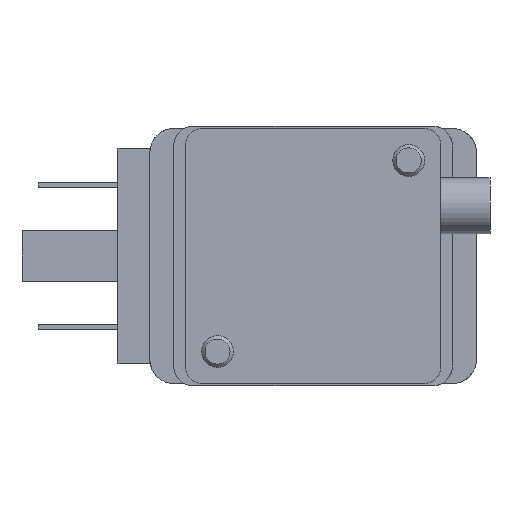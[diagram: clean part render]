
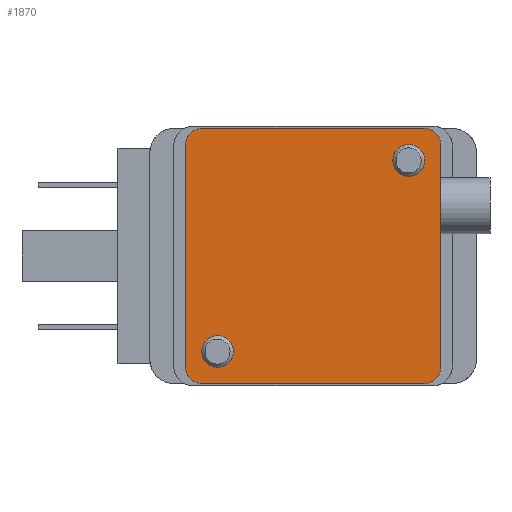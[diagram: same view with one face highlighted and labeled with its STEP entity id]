
A CAD part, front view. The second image highlights one B-rep face of the part: STEP entity #1870.
In plain terms, the highlighted planar face has unit normal (0, -1, 0).
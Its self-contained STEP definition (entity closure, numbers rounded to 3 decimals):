
#79=CIRCLE('',#1987,2.);
#80=CIRCLE('',#1988,2.);
#81=CIRCLE('',#1989,2.);
#82=CIRCLE('',#1990,2.);
#83=CIRCLE('',#1991,2.);
#84=CIRCLE('',#1992,2.);
#377=ORIENTED_EDGE('',*,*,#599,.F.);
#378=ORIENTED_EDGE('',*,*,#600,.F.);
#379=ORIENTED_EDGE('',*,*,#601,.F.);
#380=ORIENTED_EDGE('',*,*,#602,.F.);
#381=ORIENTED_EDGE('',*,*,#603,.F.);
#382=ORIENTED_EDGE('',*,*,#604,.F.);
#383=ORIENTED_EDGE('',*,*,#605,.F.);
#384=ORIENTED_EDGE('',*,*,#606,.F.);
#385=ORIENTED_EDGE('',*,*,#607,.F.);
#386=ORIENTED_EDGE('',*,*,#608,.F.);
#599=EDGE_CURVE('',#732,#732,#79,.F.);
#600=EDGE_CURVE('',#733,#733,#80,.F.);
#601=EDGE_CURVE('',#734,#735,#81,.T.);
#602=EDGE_CURVE('',#736,#734,#867,.T.);
#603=EDGE_CURVE('',#737,#736,#82,.T.);
#604=EDGE_CURVE('',#738,#737,#868,.T.);
#605=EDGE_CURVE('',#739,#738,#83,.T.);
#606=EDGE_CURVE('',#740,#739,#869,.T.);
#607=EDGE_CURVE('',#741,#740,#84,.T.);
#608=EDGE_CURVE('',#735,#741,#870,.T.);
#732=VERTEX_POINT('',#2711);
#733=VERTEX_POINT('',#2713);
#734=VERTEX_POINT('',#2715);
#735=VERTEX_POINT('',#2716);
#736=VERTEX_POINT('',#2718);
#737=VERTEX_POINT('',#2720);
#738=VERTEX_POINT('',#2722);
#739=VERTEX_POINT('',#2724);
#740=VERTEX_POINT('',#2726);
#741=VERTEX_POINT('',#2728);
#867=LINE('',#2717,#1000);
#868=LINE('',#2721,#1001);
#869=LINE('',#2725,#1002);
#870=LINE('',#2729,#1003);
#1000=VECTOR('',#2325,1000.);
#1001=VECTOR('',#2328,1000.);
#1002=VECTOR('',#2331,1000.);
#1003=VECTOR('',#2334,1000.);
#1088=EDGE_LOOP('',(#377));
#1089=EDGE_LOOP('',(#378));
#1090=EDGE_LOOP('',(#379,#380,#381,#382,#383,#384,#385,#386));
#1183=FACE_BOUND('',#1088,.T.);
#1184=FACE_BOUND('',#1089,.T.);
#1185=FACE_BOUND('',#1090,.T.);
#1254=PLANE('',#1986);
#1870=ADVANCED_FACE('',(#1183,#1184,#1185),#1254,.F.);
#1986=AXIS2_PLACEMENT_3D('',#2709,#2317,#2318);
#1987=AXIS2_PLACEMENT_3D('',#2710,#2319,#2320);
#1988=AXIS2_PLACEMENT_3D('',#2712,#2321,#2322);
#1989=AXIS2_PLACEMENT_3D('',#2714,#2323,#2324);
#1990=AXIS2_PLACEMENT_3D('',#2719,#2326,#2327);
#1991=AXIS2_PLACEMENT_3D('',#2723,#2329,#2330);
#1992=AXIS2_PLACEMENT_3D('',#2727,#2332,#2333);
#2317=DIRECTION('',(0.,1.,0.));
#2318=DIRECTION('',(0.,0.,1.));
#2319=DIRECTION('',(0.,1.,0.));
#2320=DIRECTION('',(0.,0.,1.));
#2321=DIRECTION('',(0.,1.,0.));
#2322=DIRECTION('',(0.,0.,1.));
#2323=DIRECTION('',(0.,1.,0.));
#2324=DIRECTION('',(1.,0.,0.));
#2325=DIRECTION('',(-1.,0.,0.));
#2326=DIRECTION('',(0.,1.,0.));
#2327=DIRECTION('',(1.,0.,0.));
#2328=DIRECTION('',(0.,0.,-1.));
#2329=DIRECTION('',(0.,1.,0.));
#2330=DIRECTION('',(1.,0.,0.));
#2331=DIRECTION('',(1.,0.,0.));
#2332=DIRECTION('',(0.,1.,0.));
#2333=DIRECTION('',(1.,0.,0.));
#2334=DIRECTION('',(0.,0.,1.));
#2709=CARTESIAN_POINT('',(6.5,-14.3,-30.));
#2710=CARTESIAN_POINT('',(8.5,-14.3,-28.));
#2711=CARTESIAN_POINT('',(8.5,-14.3,-26.));
#2712=CARTESIAN_POINT('',(32.5,-14.3,-4.));
#2713=CARTESIAN_POINT('',(32.5,-14.3,-2.));
#2714=CARTESIAN_POINT('',(6.5,-14.3,-30.));
#2715=CARTESIAN_POINT('',(6.5,-14.3,-32.));
#2716=CARTESIAN_POINT('',(4.5,-14.3,-30.));
#2717=CARTESIAN_POINT('',(34.5,-14.3,-32.));
#2718=CARTESIAN_POINT('',(34.5,-14.3,-32.));
#2719=CARTESIAN_POINT('',(34.5,-14.3,-30.));
#2720=CARTESIAN_POINT('',(36.5,-14.3,-30.));
#2721=CARTESIAN_POINT('',(36.5,-14.3,-2.));
#2722=CARTESIAN_POINT('',(36.5,-14.3,-2.));
#2723=CARTESIAN_POINT('',(34.5,-14.3,-2.));
#2724=CARTESIAN_POINT('',(34.5,-14.3,0.));
#2725=CARTESIAN_POINT('',(6.5,-14.3,0.));
#2726=CARTESIAN_POINT('',(6.5,-14.3,0.));
#2727=CARTESIAN_POINT('',(6.5,-14.3,-2.));
#2728=CARTESIAN_POINT('',(4.5,-14.3,-2.));
#2729=CARTESIAN_POINT('',(4.5,-14.3,-30.));
